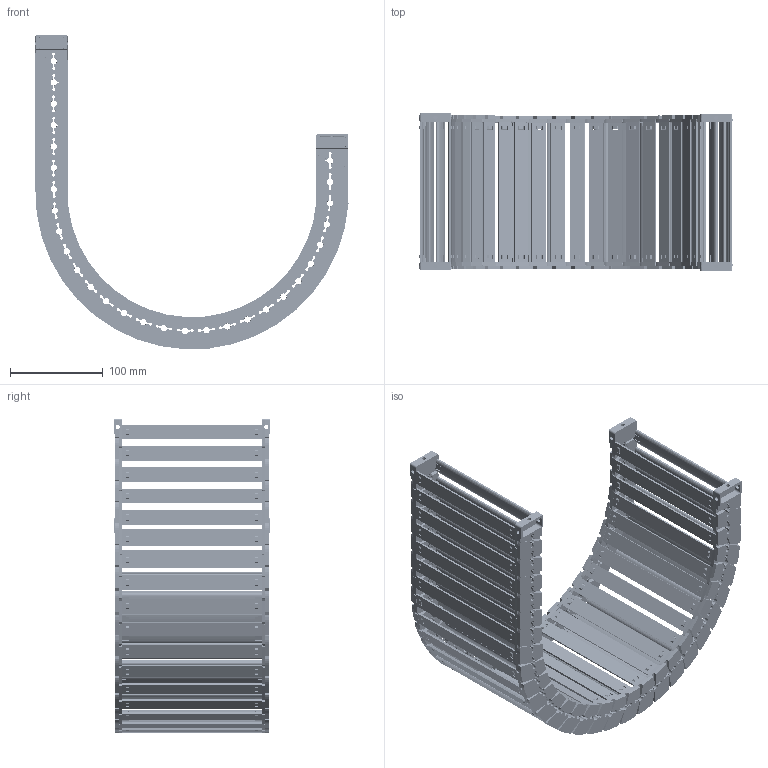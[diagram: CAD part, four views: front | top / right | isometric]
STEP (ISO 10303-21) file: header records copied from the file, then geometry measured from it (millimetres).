
FILE_DESCRIPTION((''),'2;1');
FILE_NAME('JY-28X150-R150_ASM','2026-03-25T20:42:11',('admin'),(''),'CREO PARAMETRIC BY PTC INC, 2021023','CREO PARAMETRIC BY PTC INC, 2021023','');
FILE_SCHEMA(('CONFIG_CONTROL_DESIGN'));
Length unit declared in the file: millimetre
Products named in the file (11): 28XL-L; 25-35XL-YP; 28XL-R; ASM0001_ASM; 28-LTT-A-L; 28-LTT-A-R; 28XL-LTT-A_ASM; 28-LTT-B-L; 28-LTT-B-R; 28XL-LTT-B_ASM; JY-28X150-R150_ASM
Assembly tree (42 placements, depth 3):
  JY-28X150-R150_ASM
    ASM0001_ASM  x28
      28XL-L
      25-35XL-YP
      28XL-R
    28XL-LTT-A_ASM
      28-LTT-A-L
      25-35XL-YP  x2
      28-LTT-A-R
    28XL-LTT-B_ASM
      28-LTT-B-L
      25-35XL-YP  x2
      28-LTT-B-R
Bounding box: 337.23 x 169 x 338.94 mm (x, y, z)
Volume: 768531.5 mm3; surface area: 548673.2 mm2
Topology: 120 solids, 120 shells, 9750 faces, 28988 edges, 19358 vertices
Faces by surface type: plane 6392, cone 1766, cylinder 1394, bspline 198
Entity records: 29175 total; most frequent: CARTESIAN_POINT 9500, ORIENTED_EDGE 4352, DIRECTION 3675, EDGE_CURVE 2176, VERTEX_POINT 1454, VECTOR 1365, LINE 1365, AXIS2_PLACEMENT_3D 1155
